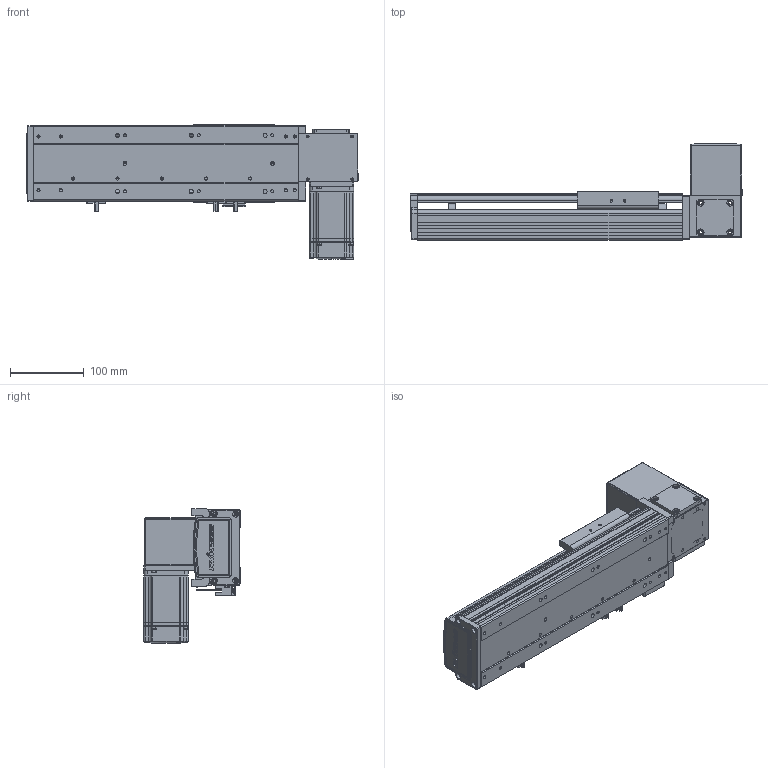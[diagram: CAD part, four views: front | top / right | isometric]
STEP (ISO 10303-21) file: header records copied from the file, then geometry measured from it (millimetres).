
FILE_DESCRIPTION (( 'STEP AP203' ), '1' );
FILE_NAME ('RY100-T-300-UL.SLDASM_150.step', '2024-04-25T08:38:59', ( '盈信电脑' ), ( '东莞市道滘镇水果街19号' ), 'SwSTEP 2.0', 'SolidWorks 2016', '' );
FILE_SCHEMA (( 'CONFIG_CONTROL_DESIGN' ));
Length unit declared in the file: millimetre
Products named in the file (15): 1; RY100-T-300-RK倰第奻裔_150; 覜茼ん672; RY100綴裔啣; RY100-T翋肮祭謫裔啣2; RY100-T粣創揤踡裔; RY100-T肮祭謫翋盓傅釱; RY100-T左右折电机安装板; RY100俋离覜茼え; RY100-T翋肮祭謫裔啣; RY80-T肮祭謫奻殏俋欶; RY100-T-300-RK倰第菁釱_150; RY100-T-300-UL.SLDASM_150; RY100-T肮祭謫臏賑輸; 滅袉蝶18-10
Assembly tree (17 placements, depth 2):
  RY100-T-300-UL.SLDASM_150
    RY100-T-300-RK倰第菁釱_150
    RY100-T-300-RK倰第奻裔_150
    RY100-T肮祭謫臏賑輸
    RY100綴裔啣
    覜茼ん672  x3
    RY100俋离覜茼え
    RY100-T肮祭謫翋盓傅釱
    滅袉蝶18-10  x2
    RY100-T翋肮祭謫裔啣2
    RY100-T翋肮祭謫裔啣
    1
    RY100-T左右折电机安装板
    RY80-T肮祭謫奻殏俋欶
    RY100-T粣創揤踡裔
Bounding box: 450 x 130.5 x 182.5 mm (x, y, z)
Volume: 1271948.6 mm3; surface area: 476599.7 mm2
Topology: 17 solids, 17 shells, 2085 faces, 5747 edges, 3727 vertices
Faces by surface type: plane 1187, cylinder 697, cone 123, bspline 78
Entity records: 65979 total; most frequent: CARTESIAN_POINT 15579, ORIENTED_EDGE 10326, DIRECTION 9853, EDGE_CURVE 5163, VECTOR 3453, LINE 3453, VERTEX_POINT 3395, AXIS2_PLACEMENT_3D 3200
